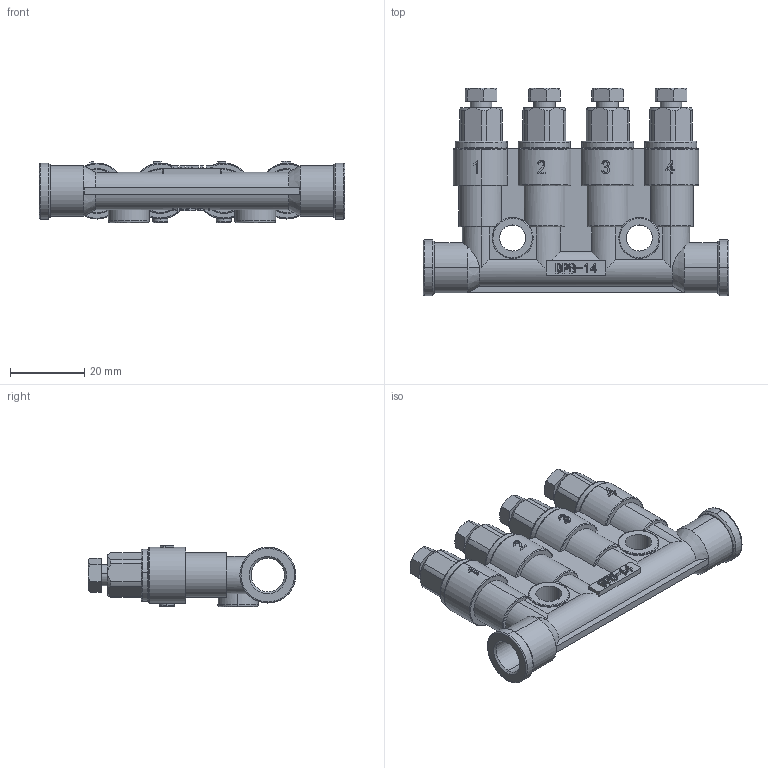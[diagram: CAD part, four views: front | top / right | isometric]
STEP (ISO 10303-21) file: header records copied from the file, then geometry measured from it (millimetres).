
FILE_DESCRIPTION (( 'STEP AP203' ), '1' );
FILE_NAME ('DPB-14.STEP', '2020-04-17T09:00:48', ( '个人用户' ), ( '微软中国' ), 'SwSTEP 2.0', 'SolidWorks 2018', '' );
FILE_SCHEMA (( 'CONFIG_CONTROL_DESIGN' ));
Length unit declared in the file: millimetre
Products named in the file (1): DPB-14
Bounding box: 82 x 55.7 x 16.5 mm (x, y, z)
Surface area: 13124.9 mm2 (no closed solid volume)
Topology: 0 solids, 13 shells, 512 faces, 1419 edges, 931 vertices
Faces by surface type: plane 231, cylinder 134, bspline 103, cone 44
Entity records: 21266 total; most frequent: CARTESIAN_POINT 8936, ORIENTED_EDGE 2697, DIRECTION 2294, EDGE_CURVE 1419, VERTEX_POINT 931, AXIS2_PLACEMENT_3D 804, VECTOR 686, LINE 686
